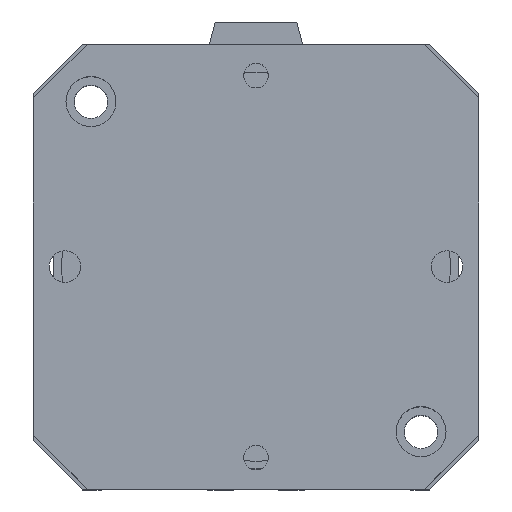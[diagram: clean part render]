
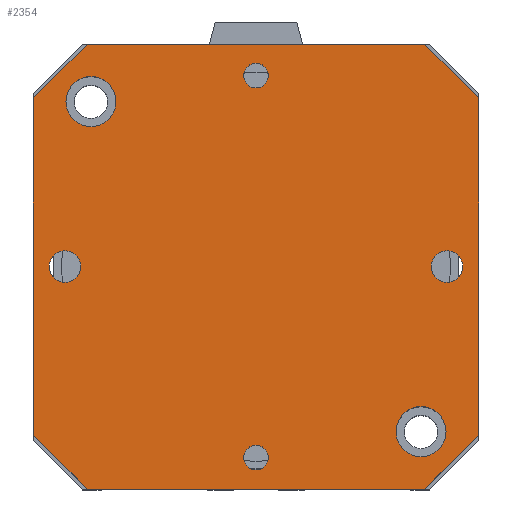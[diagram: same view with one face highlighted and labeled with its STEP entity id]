
A CAD part, top view. The second image highlights one B-rep face of the part: STEP entity #2354.
In plain terms, the highlighted planar face has unit normal (0, 0, 1).
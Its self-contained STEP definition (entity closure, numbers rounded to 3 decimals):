
#221=LINE('',#3869,#429);
#223=LINE('',#3873,#431);
#225=LINE('',#3877,#433);
#227=LINE('',#3881,#435);
#229=LINE('',#3885,#437);
#231=LINE('',#3889,#439);
#233=LINE('',#3893,#441);
#235=LINE('',#3896,#443);
#429=VECTOR('',#3196,91.);
#431=VECTOR('',#3200,20.506);
#433=VECTOR('',#3204,91.);
#435=VECTOR('',#3208,20.506);
#437=VECTOR('',#3212,91.);
#439=VECTOR('',#3216,20.506);
#441=VECTOR('',#3220,91.);
#443=VECTOR('',#3224,20.506);
#537=PLANE('',#2580);
#626=FACE_BOUND('',#956,.T.);
#627=FACE_BOUND('',#957,.T.);
#628=FACE_BOUND('',#958,.T.);
#629=FACE_BOUND('',#959,.T.);
#630=FACE_BOUND('',#960,.T.);
#631=FACE_BOUND('',#961,.T.);
#632=FACE_BOUND('',#962,.T.);
#956=EDGE_LOOP('',(#2134));
#957=EDGE_LOOP('',(#2135));
#958=EDGE_LOOP('',(#2136));
#959=EDGE_LOOP('',(#2137));
#960=EDGE_LOOP('',(#2138));
#961=EDGE_LOOP('',(#2139));
#962=EDGE_LOOP('',(#2140,#2141,#2142,#2143,#2144,#2145,#2146,#2147));
#1035=CIRCLE('',#2536,3.324);
#1037=CIRCLE('',#2539,3.324);
#1042=CIRCLE('',#2547,4.25);
#1046=CIRCLE('',#2554,4.25);
#1055=CIRCLE('',#2569,6.75);
#1056=CIRCLE('',#2571,6.75);
#1235=VERTEX_POINT('',#3787);
#1237=VERTEX_POINT('',#3792);
#1242=VERTEX_POINT('',#3805);
#1246=VERTEX_POINT('',#3816);
#1265=VERTEX_POINT('',#3860);
#1266=VERTEX_POINT('',#3863);
#1267=VERTEX_POINT('',#3866);
#1268=VERTEX_POINT('',#3868);
#1269=VERTEX_POINT('',#3872);
#1270=VERTEX_POINT('',#3876);
#1271=VERTEX_POINT('',#3880);
#1272=VERTEX_POINT('',#3884);
#1273=VERTEX_POINT('',#3888);
#1274=VERTEX_POINT('',#3892);
#1521=EDGE_CURVE('',#1235,#1235,#1035,.T.);
#1523=EDGE_CURVE('',#1237,#1237,#1037,.T.);
#1528=EDGE_CURVE('',#1242,#1242,#1042,.T.);
#1532=EDGE_CURVE('',#1246,#1246,#1046,.T.);
#1551=EDGE_CURVE('',#1265,#1265,#1055,.T.);
#1552=EDGE_CURVE('',#1266,#1266,#1056,.T.);
#1554=EDGE_CURVE('',#1268,#1267,#221,.T.);
#1556=EDGE_CURVE('',#1269,#1268,#223,.T.);
#1558=EDGE_CURVE('',#1270,#1269,#225,.T.);
#1560=EDGE_CURVE('',#1271,#1270,#227,.T.);
#1562=EDGE_CURVE('',#1272,#1271,#229,.T.);
#1564=EDGE_CURVE('',#1273,#1272,#231,.T.);
#1566=EDGE_CURVE('',#1274,#1273,#233,.T.);
#1568=EDGE_CURVE('',#1267,#1274,#235,.T.);
#2134=ORIENTED_EDGE('',*,*,#1521,.T.);
#2135=ORIENTED_EDGE('',*,*,#1523,.T.);
#2136=ORIENTED_EDGE('',*,*,#1528,.T.);
#2137=ORIENTED_EDGE('',*,*,#1532,.T.);
#2138=ORIENTED_EDGE('',*,*,#1551,.T.);
#2139=ORIENTED_EDGE('',*,*,#1552,.T.);
#2140=ORIENTED_EDGE('',*,*,#1568,.T.);
#2141=ORIENTED_EDGE('',*,*,#1566,.T.);
#2142=ORIENTED_EDGE('',*,*,#1564,.T.);
#2143=ORIENTED_EDGE('',*,*,#1562,.T.);
#2144=ORIENTED_EDGE('',*,*,#1560,.T.);
#2145=ORIENTED_EDGE('',*,*,#1558,.T.);
#2146=ORIENTED_EDGE('',*,*,#1556,.T.);
#2147=ORIENTED_EDGE('',*,*,#1554,.T.);
#2354=ADVANCED_FACE('',(#626,#627,#628,#629,#630,#631,#632),#537,.T.);
#2536=AXIS2_PLACEMENT_3D('',#3788,#3111,#3112);
#2539=AXIS2_PLACEMENT_3D('',#3793,#3117,#3118);
#2547=AXIS2_PLACEMENT_3D('',#3806,#3133,#3134);
#2554=AXIS2_PLACEMENT_3D('',#3817,#3147,#3148);
#2569=AXIS2_PLACEMENT_3D('',#3861,#3187,#3188);
#2571=AXIS2_PLACEMENT_3D('',#3864,#3191,#3192);
#2580=AXIS2_PLACEMENT_3D('',#3897,#3225,#3226);
#3111=DIRECTION('center_axis',(0.,0.,-1.));
#3112=DIRECTION('ref_axis',(1.,0.,0.));
#3117=DIRECTION('center_axis',(0.,0.,-1.));
#3118=DIRECTION('ref_axis',(1.,0.,0.));
#3133=DIRECTION('center_axis',(0.,0.,-1.));
#3134=DIRECTION('ref_axis',(1.,0.,0.));
#3147=DIRECTION('center_axis',(0.,0.,-1.));
#3148=DIRECTION('ref_axis',(1.,0.,0.));
#3187=DIRECTION('center_axis',(0.,0.,-1.));
#3188=DIRECTION('ref_axis',(-1.,0.,0.));
#3191=DIRECTION('center_axis',(0.,0.,-1.));
#3192=DIRECTION('ref_axis',(-1.,0.,0.));
#3196=DIRECTION('',(0.,1.,0.));
#3200=DIRECTION('',(0.707,0.707,0.));
#3204=DIRECTION('',(1.,0.,0.));
#3208=DIRECTION('',(0.707,-0.707,0.));
#3212=DIRECTION('',(0.,-1.,0.));
#3216=DIRECTION('',(-0.707,-0.707,0.));
#3220=DIRECTION('',(-1.,0.,0.));
#3224=DIRECTION('',(-0.707,0.707,0.));
#3225=DIRECTION('center_axis',(0.,0.,1.));
#3226=DIRECTION('ref_axis',(1.,0.,0.));
#3787=CARTESIAN_POINT('',(-54.824,0.,100.75));
#3788=CARTESIAN_POINT('Origin',(-51.5,0.,100.75));
#3792=CARTESIAN_POINT('',(48.177,0.,100.75));
#3793=CARTESIAN_POINT('Origin',(51.5,0.,100.75));
#3805=CARTESIAN_POINT('',(-4.25,51.5,100.75));
#3806=CARTESIAN_POINT('Origin',(0.,51.5,100.75));
#3816=CARTESIAN_POINT('',(-4.25,-51.5,100.75));
#3817=CARTESIAN_POINT('Origin',(0.,-51.5,100.75));
#3860=CARTESIAN_POINT('',(-37.75,-44.5,100.75));
#3861=CARTESIAN_POINT('Origin',(-44.5,-44.5,100.75));
#3863=CARTESIAN_POINT('',(51.25,44.5,100.75));
#3864=CARTESIAN_POINT('Origin',(44.5,44.5,100.75));
#3866=CARTESIAN_POINT('',(60.,45.5,100.75));
#3868=CARTESIAN_POINT('',(60.,-45.5,100.75));
#3869=CARTESIAN_POINT('',(60.,45.5,100.75));
#3872=CARTESIAN_POINT('',(45.5,-60.,100.75));
#3873=CARTESIAN_POINT('',(60.,-45.5,100.75));
#3876=CARTESIAN_POINT('',(-45.5,-60.,100.75));
#3877=CARTESIAN_POINT('',(45.5,-60.,100.75));
#3880=CARTESIAN_POINT('',(-60.,-45.5,100.75));
#3881=CARTESIAN_POINT('',(-45.5,-60.,100.75));
#3884=CARTESIAN_POINT('',(-60.,45.5,100.75));
#3885=CARTESIAN_POINT('',(-60.,-45.5,100.75));
#3888=CARTESIAN_POINT('',(-45.5,60.,100.75));
#3889=CARTESIAN_POINT('',(-60.,45.5,100.75));
#3892=CARTESIAN_POINT('',(45.5,60.,100.75));
#3893=CARTESIAN_POINT('',(-45.5,60.,100.75));
#3896=CARTESIAN_POINT('',(45.5,60.,100.75));
#3897=CARTESIAN_POINT('Origin',(0.,0.,100.75));
